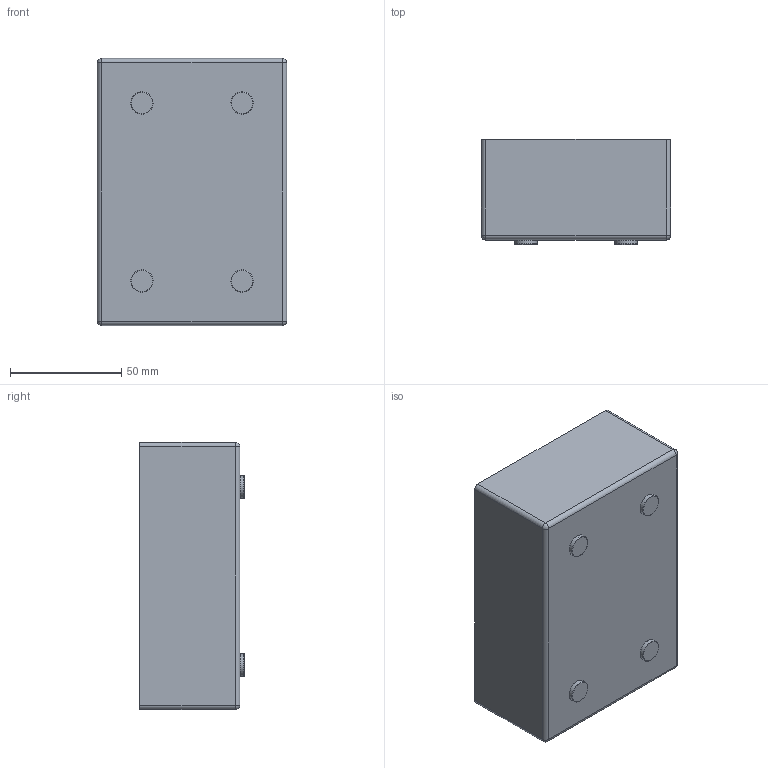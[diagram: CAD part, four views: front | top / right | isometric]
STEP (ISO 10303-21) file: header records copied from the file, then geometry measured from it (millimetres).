
FILE_DESCRIPTION(/* description */ (''),/* implementation_level */ '2;1');
FILE_NAME(/* name */ 'D:\DABSTORY\Folder dabstory pulpit - 16.03.2020\1. Oferta łazienkowa\Mydelniczka wolnostojaca\Model 3d\Mydelniczka wolnostojąca.stp',/* time_stamp */ '2020-12-29T16:06:28+01:00',/* author */ ('Verical'),/* organization */ (''),/* preprocessor_version */ 'ST-DEVELOPER v17',/* originating_system */ 'Autodesk Inventor 2018',/* authorisation */ '');
FILE_SCHEMA (('AUTOMOTIVE_DESIGN { 1 0 10303 214 3 1 1 }'));
Length unit declared in the file: millimetre
Products named in the file (1): Mydelniczka wolnostojąca
Bounding box: 85 x 47 x 120 mm (x, y, z)
Volume: 40371.9 mm3; surface area: 80830.5 mm2
Topology: 1 solids, 1 shells, 86 faces, 235 edges, 156 vertices
Faces by surface type: cylinder 39, plane 31, torus 8, sphere 8
Full cylindrical faces by diameter (mm): 10 x19
Entity records: 2906 total; most frequent: DIRECTION 549, CARTESIAN_POINT 478, ORIENTED_EDGE 470, EDGE_CURVE 235, AXIS2_PLACEMENT_3D 227, VERTEX_POINT 156, CIRCLE 140, EDGE_LOOP 123
